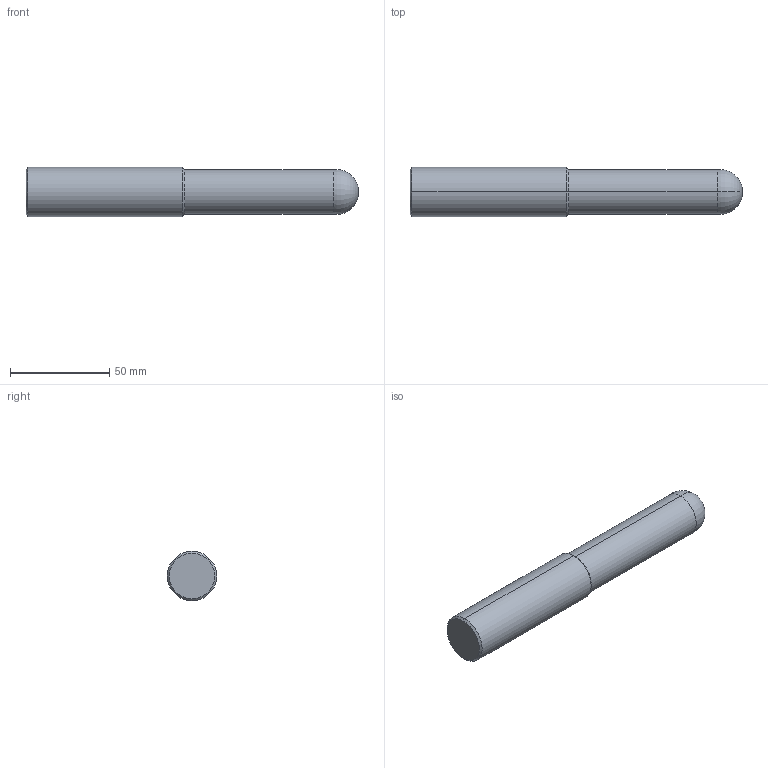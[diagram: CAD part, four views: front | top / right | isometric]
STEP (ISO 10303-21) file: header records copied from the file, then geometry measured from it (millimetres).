
FILE_DESCRIPTION (( 'STEP AP214' ), '1' );
FILE_NAME ('ZBS2502250-1.STEP', '2021-10-01T00:22:56', ( '' ), ( '' ), 'SwSTEP 2.0', 'SolidWorks 2018', '' );
FILE_SCHEMA (( 'AUTOMOTIVE_DESIGN' ));
Length unit declared in the file: millimetre
Products named in the file (1): ZBS2502250-1
Bounding box: 167.5 x 25 x 25 mm (x, y, z)
Volume: 72643.3 mm3; surface area: 12975.8 mm2
Topology: 1 solids, 1 shells, 12 faces, 22 edges, 12 vertices
Faces by surface type: cone 4, cylinder 4, torus 2, plane 2
Entity records: 330 total; most frequent: DIRECTION 62, CARTESIAN_POINT 47, ORIENTED_EDGE 44, AXIS2_PLACEMENT_3D 27, EDGE_CURVE 22, CIRCLE 14, FACE_OUTER_BOUND 12, ADVANCED_FACE 12
